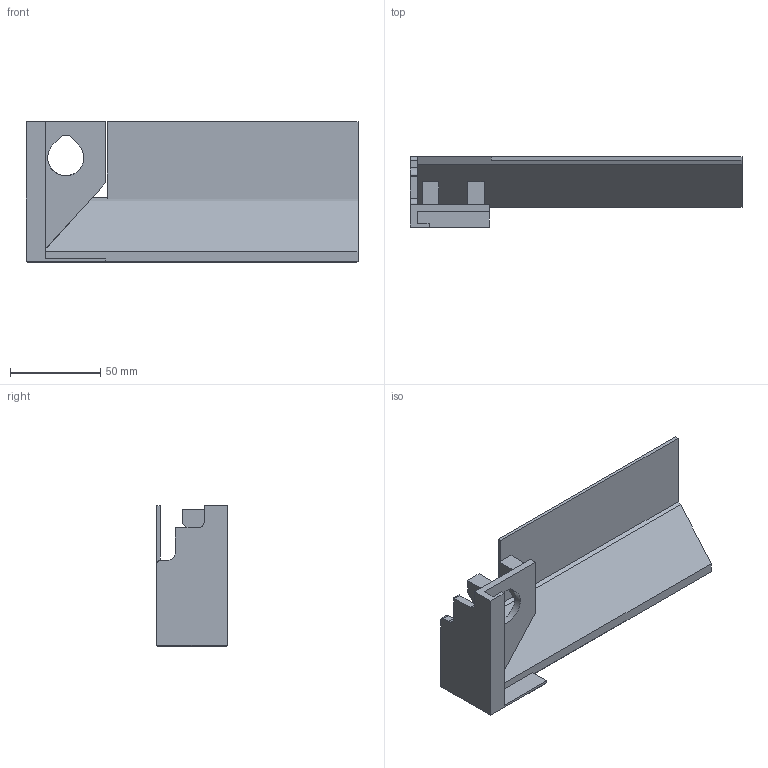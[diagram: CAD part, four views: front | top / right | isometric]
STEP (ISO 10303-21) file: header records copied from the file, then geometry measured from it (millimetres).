
FILE_DESCRIPTION(('FreeCAD Model'),'2;1');
FILE_NAME('Open CASCADE Shape Model','2026-09-08T07:02:38',('FreeCAD'),( 'FreeCAD'),'Open CASCADE STEP processor 7.8','FreeCAD','Unknown');
FILE_SCHEMA(('AUTOMOTIVE_DESIGN { 1 0 10303 214 1 1 1 1 }'));
Length unit declared in the file: millimetre
Products named in the file (1): Open CASCADE STEP translator 7.8 7
Bounding box: 183.8 x 39 x 78 mm (x, y, z)
Volume: 74456.3 mm3; surface area: 52365.8 mm2
Topology: 1 solids, 1 shells, 60 faces, 164 edges, 107 vertices
Faces by surface type: plane 55, cylinder 5
Entity records: 1880 total; most frequent: CARTESIAN_POINT 332, ORIENTED_EDGE 328, DIRECTION 298, EDGE_CURVE 164, LINE 152, VECTOR 152, VERTEX_POINT 107, AXIS2_PLACEMENT_3D 73
